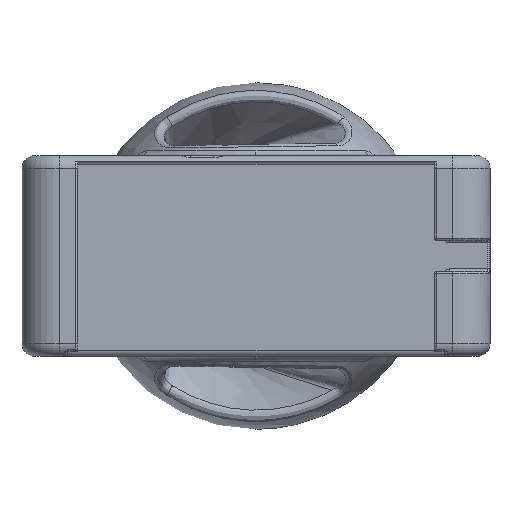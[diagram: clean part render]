
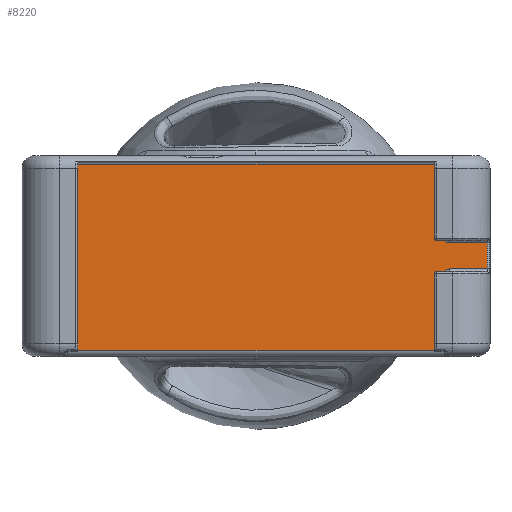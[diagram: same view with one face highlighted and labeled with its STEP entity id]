
A CAD part, left-side view. The second image highlights one B-rep face of the part: STEP entity #8220.
In plain terms, the highlighted planar face has unit normal (-1, 0, 0).
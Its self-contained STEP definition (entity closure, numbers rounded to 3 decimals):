
#139 = CARTESIAN_POINT ( 'NONE',  ( 9.55, 0.5, -7.25 ) ) ;
#176 = CARTESIAN_POINT ( 'NONE',  ( 9.55, 0.5, 37. ) ) ;
#207 = DIRECTION ( 'NONE',  ( 0., 0., 1. ) ) ;
#265 = VERTEX_POINT ( 'NONE', #176 ) ;
#359 = DIRECTION ( 'NONE',  ( 0., 0., 1. ) ) ;
#429 = DIRECTION ( 'NONE',  ( 0., 1., 0. ) ) ;
#508 = CARTESIAN_POINT ( 'NONE',  ( 9.55, -0.5, 40.5 ) ) ;
#537 = CARTESIAN_POINT ( 'NONE',  ( 9.55, -1.5, -5.25 ) ) ;
#590 = EDGE_LOOP ( 'NONE', ( #5743, #3958, #8610, #4206, #2049, #3080, #1873, #6301, #1699, #605 ) ) ;
#605 = ORIENTED_EDGE ( 'NONE', *, *, #3790, .F. ) ;
#622 = VERTEX_POINT ( 'NONE', #2845 ) ;
#741 = VERTEX_POINT ( 'NONE', #537 ) ;
#1161 = DIRECTION ( 'NONE',  ( 0., -1., 0. ) ) ;
#1234 = LINE ( 'NONE', #6898, #6738 ) ;
#1248 = DIRECTION ( 'NONE',  ( 1., 0., 0. ) ) ;
#1449 = VECTOR ( 'NONE', #6138, 1000. ) ;
#1455 = EDGE_CURVE ( 'NONE', #622, #5380, #2294, .T. ) ;
#1581 = CARTESIAN_POINT ( 'NONE',  ( 9.55, 152.4, -38. ) ) ;
#1698 = VECTOR ( 'NONE', #2324, 1000. ) ;
#1699 = ORIENTED_EDGE ( 'NONE', *, *, #2318, .T. ) ;
#1873 = ORIENTED_EDGE ( 'NONE', *, *, #7246, .T. ) ;
#1936 = LINE ( 'NONE', #1581, #1698 ) ;
#2049 = ORIENTED_EDGE ( 'NONE', *, *, #8620, .T. ) ;
#2083 = EDGE_CURVE ( 'NONE', #741, #5845, #3689, .T. ) ;
#2244 = VERTEX_POINT ( 'NONE', #139 ) ;
#2294 = LINE ( 'NONE', #2474, #8247 ) ;
#2318 = EDGE_CURVE ( 'NONE', #5380, #2244, #1234, .T. ) ;
#2324 = DIRECTION ( 'NONE',  ( 0., 0., -1. ) ) ;
#2474 = CARTESIAN_POINT ( 'NONE',  ( 9.55, -0.5, -38. ) ) ;
#2711 = EDGE_CURVE ( 'NONE', #2939, #3048, #9044, .T. ) ;
#2716 = CARTESIAN_POINT ( 'NONE',  ( 9.55, -0.5, 37. ) ) ;
#2799 = CARTESIAN_POINT ( 'NONE',  ( 9.55, 0.5, 7.25 ) ) ;
#2845 = CARTESIAN_POINT ( 'NONE',  ( 9.55, 152.4, -38. ) ) ;
#2921 = CARTESIAN_POINT ( 'NONE',  ( 9.55, -16.97, 5.25 ) ) ;
#2939 = VERTEX_POINT ( 'NONE', #2799 ) ;
#3048 = VERTEX_POINT ( 'NONE', #6923 ) ;
#3080 = ORIENTED_EDGE ( 'NONE', *, *, #4570, .T. ) ;
#3090 = VECTOR ( 'NONE', #3464, 1000. ) ;
#3376 = CARTESIAN_POINT ( 'NONE',  ( 9.55, -17.841, -5.25 ) ) ;
#3392 = CARTESIAN_POINT ( 'NONE',  ( 9.55, -1.5, 7.25 ) ) ;
#3464 = DIRECTION ( 'NONE',  ( 0., 1., 0. ) ) ;
#3689 = LINE ( 'NONE', #3376, #7441 ) ;
#3790 = EDGE_CURVE ( 'NONE', #741, #2244, #5412, .T. ) ;
#3870 = CARTESIAN_POINT ( 'NONE',  ( 9.55, -0.5, 5.25 ) ) ;
#3958 = ORIENTED_EDGE ( 'NONE', *, *, #8059, .T. ) ;
#3997 = CARTESIAN_POINT ( 'NONE',  ( 9.55, 0.5, 38. ) ) ;
#4132 = DIRECTION ( 'NONE',  ( 0., 1., 0. ) ) ;
#4206 = ORIENTED_EDGE ( 'NONE', *, *, #2711, .F. ) ;
#4238 = VECTOR ( 'NONE', #5500, 1000. ) ;
#4570 = EDGE_CURVE ( 'NONE', #265, #4813, #9030, .T. ) ;
#4813 = VERTEX_POINT ( 'NONE', #5158 ) ;
#4875 = DIRECTION ( 'NONE',  ( -1., 0., 0. ) ) ;
#4955 = PLANE ( 'NONE',  #5157 ) ;
#5075 = EDGE_CURVE ( 'NONE', #5773, #3048, #7633, .T. ) ;
#5157 = AXIS2_PLACEMENT_3D ( 'NONE', #508, #1248, #6469 ) ;
#5158 = CARTESIAN_POINT ( 'NONE',  ( 9.55, 152.4, 37. ) ) ;
#5380 = VERTEX_POINT ( 'NONE', #6099 ) ;
#5412 = CIRCLE ( 'NONE', #9249, 2. ) ;
#5500 = DIRECTION ( 'NONE',  ( 0., 0., 1. ) ) ;
#5632 = AXIS2_PLACEMENT_3D ( 'NONE', #3392, #8602, #4132 ) ;
#5743 = ORIENTED_EDGE ( 'NONE', *, *, #2083, .T. ) ;
#5773 = VERTEX_POINT ( 'NONE', #2921 ) ;
#5845 = VERTEX_POINT ( 'NONE', #6990 ) ;
#6099 = CARTESIAN_POINT ( 'NONE',  ( 9.55, 0.5, -38. ) ) ;
#6123 = VECTOR ( 'NONE', #359, 1000. ) ;
#6138 = DIRECTION ( 'NONE',  ( 0., 1., 0. ) ) ;
#6227 = CARTESIAN_POINT ( 'NONE',  ( 9.55, -16.97, 40.5 ) ) ;
#6301 = ORIENTED_EDGE ( 'NONE', *, *, #1455, .T. ) ;
#6469 = DIRECTION ( 'NONE',  ( 0., 1., 0. ) ) ;
#6738 = VECTOR ( 'NONE', #207, 1000. ) ;
#6898 = CARTESIAN_POINT ( 'NONE',  ( 9.55, 0.5, -6.25 ) ) ;
#6923 = CARTESIAN_POINT ( 'NONE',  ( 9.55, -1.5, 5.25 ) ) ;
#6990 = CARTESIAN_POINT ( 'NONE',  ( 9.55, -16.97, -5.25 ) ) ;
#7246 = EDGE_CURVE ( 'NONE', #4813, #622, #1936, .T. ) ;
#7441 = VECTOR ( 'NONE', #1161, 1000. ) ;
#7633 = LINE ( 'NONE', #3870, #1449 ) ;
#8059 = EDGE_CURVE ( 'NONE', #5845, #5773, #8112, .T. ) ;
#8112 = LINE ( 'NONE', #6227, #6123 ) ;
#8220 = ADVANCED_FACE ( 'NONE', ( #9141 ), #4955, .F. ) ;
#8221 = LINE ( 'NONE', #3997, #4238 ) ;
#8247 = VECTOR ( 'NONE', #8435, 1000. ) ;
#8435 = DIRECTION ( 'NONE',  ( 0., -1., 0. ) ) ;
#8602 = DIRECTION ( 'NONE',  ( -1., 0., 0. ) ) ;
#8610 = ORIENTED_EDGE ( 'NONE', *, *, #5075, .T. ) ;
#8620 = EDGE_CURVE ( 'NONE', #2939, #265, #8221, .T. ) ;
#9030 = LINE ( 'NONE', #2716, #3090 ) ;
#9044 = CIRCLE ( 'NONE', #5632, 2. ) ;
#9141 = FACE_OUTER_BOUND ( 'NONE', #590, .T. ) ;
#9249 = AXIS2_PLACEMENT_3D ( 'NONE', #9341, #4875, #429 ) ;
#9341 = CARTESIAN_POINT ( 'NONE',  ( 9.55, -1.5, -7.25 ) ) ;
